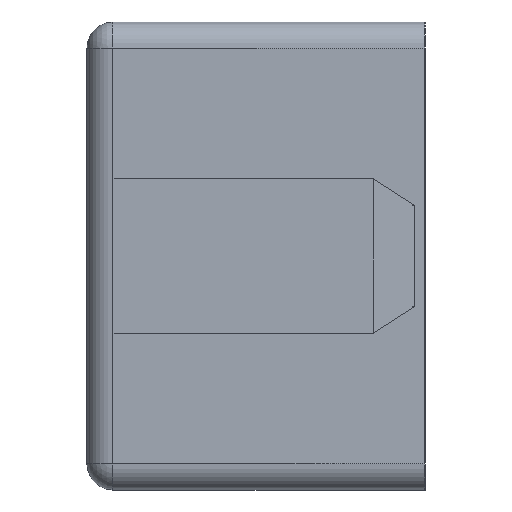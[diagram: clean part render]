
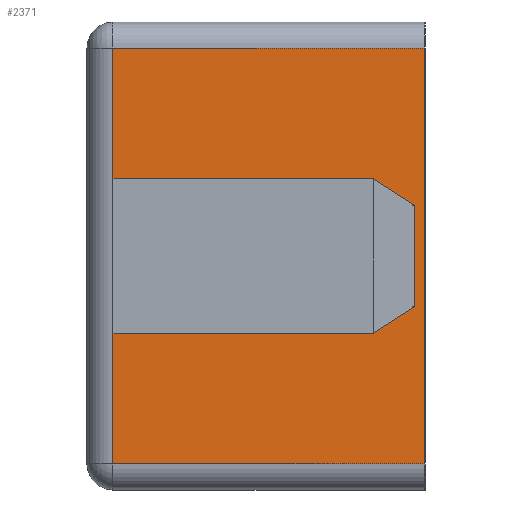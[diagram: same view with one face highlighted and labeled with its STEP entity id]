
A CAD part, left-side view. The second image highlights one B-rep face of the part: STEP entity #2371.
In plain terms, the highlighted planar face has unit normal (-1, 0, 0).
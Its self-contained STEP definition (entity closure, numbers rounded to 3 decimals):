
#69 = LINE ( 'NONE', #6601, #6105 ) ;
#430 = PLANE ( 'NONE',  #8537 ) ;
#528 = DIRECTION ( 'NONE',  ( 0., 1., 0. ) ) ;
#667 = LINE ( 'NONE', #3340, #1791 ) ;
#778 = DIRECTION ( 'NONE',  ( 0., 0., 1. ) ) ;
#1001 = CARTESIAN_POINT ( 'NONE',  ( 0., 25., -40. ) ) ;
#1187 = DIRECTION ( 'NONE',  ( 0., 0., 1. ) ) ;
#1207 = ORIENTED_EDGE ( 'NONE', *, *, #7713, .F. ) ;
#1791 = VECTOR ( 'NONE', #528, 1000. ) ;
#1805 = VERTEX_POINT ( 'NONE', #8947 ) ;
#1859 = CARTESIAN_POINT ( 'NONE',  ( 0., -66.066, 9.734 ) ) ;
#2030 = DIRECTION ( 'NONE',  ( 0., 0., -1. ) ) ;
#2042 = EDGE_LOOP ( 'NONE', ( #1207, #4974, #2487, #7578, #6418, #7033, #3308, #9249 ) ) ;
#2371 = ADVANCED_FACE ( 'NONE', ( #6853 ), #430, .F. ) ;
#2487 = ORIENTED_EDGE ( 'NONE', *, *, #3035, .T. ) ;
#2701 = EDGE_CURVE ( 'NONE', #9109, #3026, #6943, .T. ) ;
#2903 = EDGE_CURVE ( 'NONE', #7834, #7569, #5993, .T. ) ;
#3026 = VERTEX_POINT ( 'NONE', #5649 ) ;
#3028 = EDGE_CURVE ( 'NONE', #3680, #5798, #667, .T. ) ;
#3035 = EDGE_CURVE ( 'NONE', #5798, #7834, #3434, .T. ) ;
#3308 = ORIENTED_EDGE ( 'NONE', *, *, #7992, .T. ) ;
#3340 = CARTESIAN_POINT ( 'NONE',  ( 0., -66.066, -9.734 ) ) ;
#3434 = LINE ( 'NONE', #6357, #8560 ) ;
#3680 = VERTEX_POINT ( 'NONE', #7554 ) ;
#4083 = DIRECTION ( 'NONE',  ( 0., 0., -1. ) ) ;
#4254 = CARTESIAN_POINT ( 'NONE',  ( 0., -35., 40. ) ) ;
#4303 = VECTOR ( 'NONE', #8237, 1000. ) ;
#4887 = CARTESIAN_POINT ( 'NONE',  ( 0., -33., 9.734 ) ) ;
#4894 = VECTOR ( 'NONE', #1187, 1000. ) ;
#4931 = VECTOR ( 'NONE', #6033, 1000. ) ;
#4966 = VECTOR ( 'NONE', #5396, 1000. ) ;
#4974 = ORIENTED_EDGE ( 'NONE', *, *, #3028, .T. ) ;
#5256 = CARTESIAN_POINT ( 'NONE',  ( 0., 25., -9.734 ) ) ;
#5372 = CARTESIAN_POINT ( 'NONE',  ( 0., 30., -40. ) ) ;
#5396 = DIRECTION ( 'NONE',  ( 0., 1., 0. ) ) ;
#5615 = EDGE_CURVE ( 'NONE', #7569, #6006, #6438, .T. ) ;
#5649 = CARTESIAN_POINT ( 'NONE',  ( 0., 25., 9.734 ) ) ;
#5798 = VERTEX_POINT ( 'NONE', #5256 ) ;
#5965 = VECTOR ( 'NONE', #2030, 1000. ) ;
#5993 = LINE ( 'NONE', #5372, #4931 ) ;
#6006 = VERTEX_POINT ( 'NONE', #4254 ) ;
#6033 = DIRECTION ( 'NONE',  ( 0., -1., 0. ) ) ;
#6105 = VECTOR ( 'NONE', #778, 1000. ) ;
#6230 = CARTESIAN_POINT ( 'NONE',  ( 0., -35., -40. ) ) ;
#6357 = CARTESIAN_POINT ( 'NONE',  ( 0., 25., -45. ) ) ;
#6418 = ORIENTED_EDGE ( 'NONE', *, *, #5615, .T. ) ;
#6438 = LINE ( 'NONE', #6819, #4894 ) ;
#6601 = CARTESIAN_POINT ( 'NONE',  ( 0., -33., -9.734 ) ) ;
#6811 = CARTESIAN_POINT ( 'NONE',  ( 0., 30., 40. ) ) ;
#6819 = CARTESIAN_POINT ( 'NONE',  ( 0., -35., 40. ) ) ;
#6853 = FACE_OUTER_BOUND ( 'NONE', #2042, .T. ) ;
#6943 = LINE ( 'NONE', #1859, #4966 ) ;
#7033 = ORIENTED_EDGE ( 'NONE', *, *, #8228, .T. ) ;
#7554 = CARTESIAN_POINT ( 'NONE',  ( 0., -33., -9.734 ) ) ;
#7569 = VERTEX_POINT ( 'NONE', #6230 ) ;
#7578 = ORIENTED_EDGE ( 'NONE', *, *, #2903, .T. ) ;
#7630 = CARTESIAN_POINT ( 'NONE',  ( 0., 25., -45. ) ) ;
#7713 = EDGE_CURVE ( 'NONE', #3680, #9109, #69, .T. ) ;
#7756 = DIRECTION ( 'NONE',  ( 0., 0., -1. ) ) ;
#7834 = VERTEX_POINT ( 'NONE', #1001 ) ;
#7992 = EDGE_CURVE ( 'NONE', #1805, #3026, #8483, .T. ) ;
#8228 = EDGE_CURVE ( 'NONE', #6006, #1805, #8859, .T. ) ;
#8237 = DIRECTION ( 'NONE',  ( 0., 1., 0. ) ) ;
#8320 = CARTESIAN_POINT ( 'NONE',  ( 0., 30., 40. ) ) ;
#8483 = LINE ( 'NONE', #7630, #5965 ) ;
#8537 = AXIS2_PLACEMENT_3D ( 'NONE', #8320, #9080, #4083 ) ;
#8560 = VECTOR ( 'NONE', #7756, 1000. ) ;
#8859 = LINE ( 'NONE', #6811, #4303 ) ;
#8947 = CARTESIAN_POINT ( 'NONE',  ( 0., 25., 40. ) ) ;
#9080 = DIRECTION ( 'NONE',  ( 1., 0., 0. ) ) ;
#9109 = VERTEX_POINT ( 'NONE', #4887 ) ;
#9249 = ORIENTED_EDGE ( 'NONE', *, *, #2701, .F. ) ;
